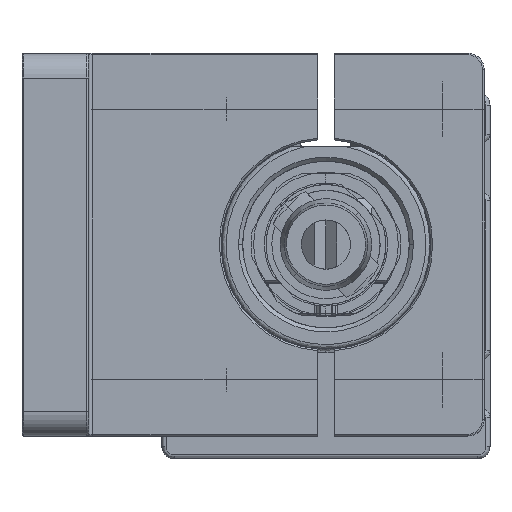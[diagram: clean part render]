
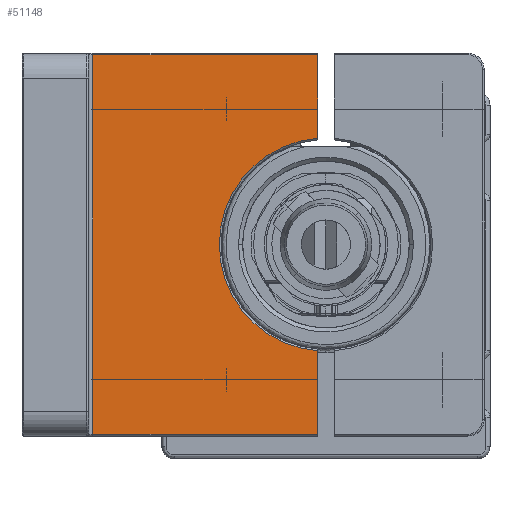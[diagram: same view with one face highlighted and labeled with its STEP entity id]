
A CAD part, front view. The second image highlights one B-rep face of the part: STEP entity #51148.
In plain terms, the highlighted planar face has unit normal (0, -1, 0) as drawn and (0, 0, 1) by its records, which use the part's own axes.
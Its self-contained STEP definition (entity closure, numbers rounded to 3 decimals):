
#559 = ORIENTED_EDGE ( 'NONE', *, *, #23357, .T. ) ;
#1950 = VECTOR ( 'NONE', #2976, 1000. ) ;
#2976 = DIRECTION ( 'NONE',  ( 0., -1., 0. ) ) ;
#3536 = EDGE_CURVE ( 'NONE', #13476, #32068, #14147, .T. ) ;
#4928 = VERTEX_POINT ( 'NONE', #34438 ) ;
#5273 = CARTESIAN_POINT ( 'NONE',  ( 45.8, 34., 8. ) ) ;
#5918 = ORIENTED_EDGE ( 'NONE', *, *, #28340, .F. ) ;
#9157 = CARTESIAN_POINT ( 'NONE',  ( 0., 7., 8. ) ) ;
#9280 = VERTEX_POINT ( 'NONE', #16101 ) ;
#10567 = CARTESIAN_POINT ( 'NONE',  ( 45.8, 34., 8. ) ) ;
#11072 = PLANE ( 'NONE',  #43401 ) ;
#12818 = ORIENTED_EDGE ( 'NONE', *, *, #16404, .F. ) ;
#13476 = VERTEX_POINT ( 'NONE', #50379 ) ;
#14147 = CIRCLE ( 'NONE', #21643, 12.8 ) ;
#14495 = FACE_OUTER_BOUND ( 'NONE', #50576, .T. ) ;
#16101 = CARTESIAN_POINT ( 'NONE',  ( 45.8, 7., 8. ) ) ;
#16404 = EDGE_CURVE ( 'NONE', #13476, #31934, #38639, .T. ) ;
#16607 = DIRECTION ( 'NONE',  ( 0., 1., 0. ) ) ;
#17580 = LINE ( 'NONE', #9157, #24961 ) ;
#18307 = DIRECTION ( 'NONE',  ( 1., 0., 0. ) ) ;
#20457 = EDGE_CURVE ( 'NONE', #4928, #46568, #47435, .T. ) ;
#21643 = AXIS2_PLACEMENT_3D ( 'NONE', #38526, #30019, #18307 ) ;
#22195 = VECTOR ( 'NONE', #23127, 1000. ) ;
#23100 = CARTESIAN_POINT ( 'NONE',  ( 0., 0., 8. ) ) ;
#23127 = DIRECTION ( 'NONE',  ( 1., 0., 0. ) ) ;
#23357 = EDGE_CURVE ( 'NONE', #46568, #9280, #17580, .T. ) ;
#24682 = LINE ( 'NONE', #5273, #36958 ) ;
#24855 = CARTESIAN_POINT ( 'NONE',  ( 0.2, 7., 8. ) ) ;
#24961 = VECTOR ( 'NONE', #33007, 1000. ) ;
#26490 = DIRECTION ( 'NONE',  ( 0., 0., 1. ) ) ;
#27892 = CARTESIAN_POINT ( 'NONE',  ( 45.8, 34., 8. ) ) ;
#28050 = ORIENTED_EDGE ( 'NONE', *, *, #35598, .T. ) ;
#28340 = EDGE_CURVE ( 'NONE', #4928, #32068, #44073, .T. ) ;
#29414 = DIRECTION ( 'NONE',  ( 1., 0., 0. ) ) ;
#30019 = DIRECTION ( 'NONE',  ( 0., 0., -1. ) ) ;
#31036 = CARTESIAN_POINT ( 'NONE',  ( 45.8, 34., 8. ) ) ;
#31934 = VERTEX_POINT ( 'NONE', #31036 ) ;
#32068 = VERTEX_POINT ( 'NONE', #51038 ) ;
#32635 = DIRECTION ( 'NONE',  ( 1., 0., 0. ) ) ;
#33007 = DIRECTION ( 'NONE',  ( 1., 0., 0. ) ) ;
#34404 = ORIENTED_EDGE ( 'NONE', *, *, #3536, .T. ) ;
#34438 = CARTESIAN_POINT ( 'NONE',  ( 0.2, 34., 8. ) ) ;
#35598 = EDGE_CURVE ( 'NONE', #9280, #31934, #24682, .T. ) ;
#36958 = VECTOR ( 'NONE', #16607, 1000. ) ;
#38526 = CARTESIAN_POINT ( 'NONE',  ( 23., 35., 8. ) ) ;
#38639 = LINE ( 'NONE', #10567, #22195 ) ;
#43401 = AXIS2_PLACEMENT_3D ( 'NONE', #23100, #26490, #29414 ) ;
#43769 = CARTESIAN_POINT ( 'NONE',  ( 0.2, 7., 8. ) ) ;
#44073 = LINE ( 'NONE', #27892, #49088 ) ;
#44811 = ORIENTED_EDGE ( 'NONE', *, *, #20457, .T. ) ;
#46568 = VERTEX_POINT ( 'NONE', #24855 ) ;
#47435 = LINE ( 'NONE', #43769, #1950 ) ;
#49088 = VECTOR ( 'NONE', #32635, 1000. ) ;
#50379 = CARTESIAN_POINT ( 'NONE',  ( 35.761, 34., 8. ) ) ;
#50576 = EDGE_LOOP ( 'NONE', ( #5918, #44811, #559, #28050, #12818, #34404 ) ) ;
#51038 = CARTESIAN_POINT ( 'NONE',  ( 10.239, 34., 8. ) ) ;
#51148 = ADVANCED_FACE ( 'NONE', ( #14495 ), #11072, .T. ) ;
